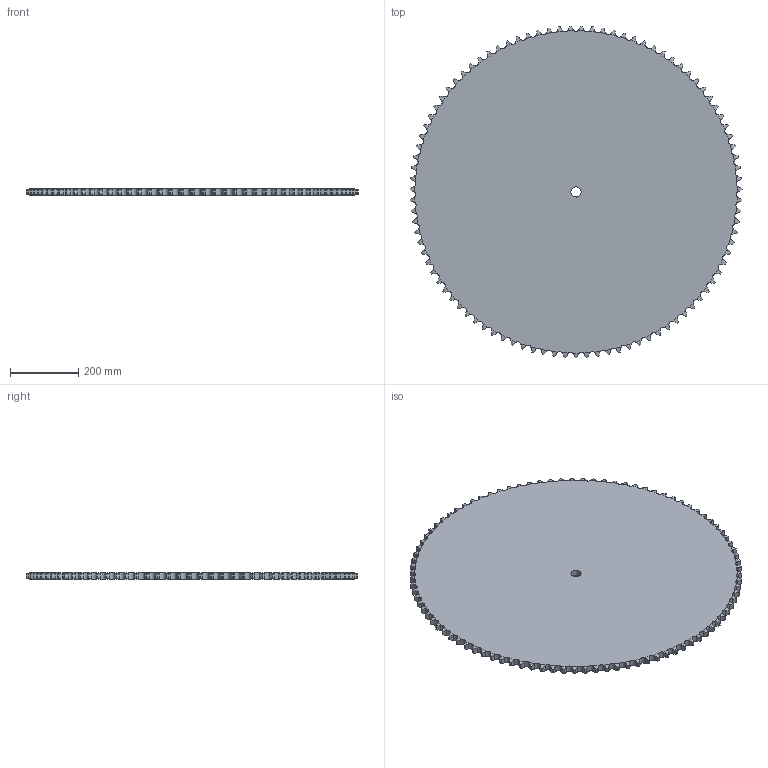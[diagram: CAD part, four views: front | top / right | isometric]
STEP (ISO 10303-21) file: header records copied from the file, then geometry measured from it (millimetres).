
FILE_DESCRIPTION((''),'2;1');
FILE_NAME('500-601-0095_PRT','2021-02-12T',('Brieden'),('Brieden'),'PRO/ENGINEER BY PARAMETRIC TECHNOLOGY CORPORATION, 2010160','PRO/ENGINEER BY PARAMETRIC TECHNOLOGY CORPORATION, 2010160','');
FILE_SCHEMA(('AUTOMOTIVE_DESIGN { 1 0 10303 214 1 1 1 1 }'));
Length unit declared in the file: millimetre
Products named in the file (1): 500-601-0095_PRT
Bounding box: 973.44 x 973.31 x 18.5 mm (x, y, z)
Volume: 13192409.5 mm3; surface area: 1509310 mm2
Topology: 1 solids, 1 shells, 574 faces, 1716 edges, 1144 vertices
Faces by surface type: cylinder 382, torus 190, plane 2
Entity records: 29666 total; most frequent: CARTESIAN_POINT 9927, ORIENTED_EDGE 3432, DIRECTION 2678, PRESENTATION_STYLE_ASSIGNMENT 1717, STYLED_ITEM 1717, CURVE_STYLE 1716, EDGE_CURVE 1716, AXIS2_PLACEMENT_3D 1148
